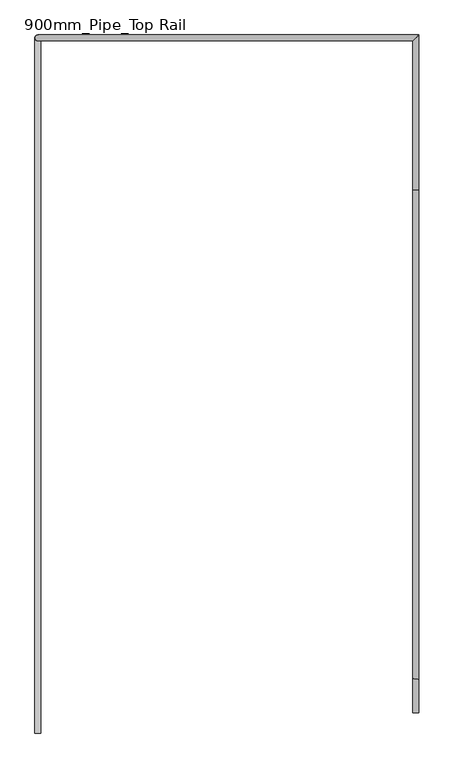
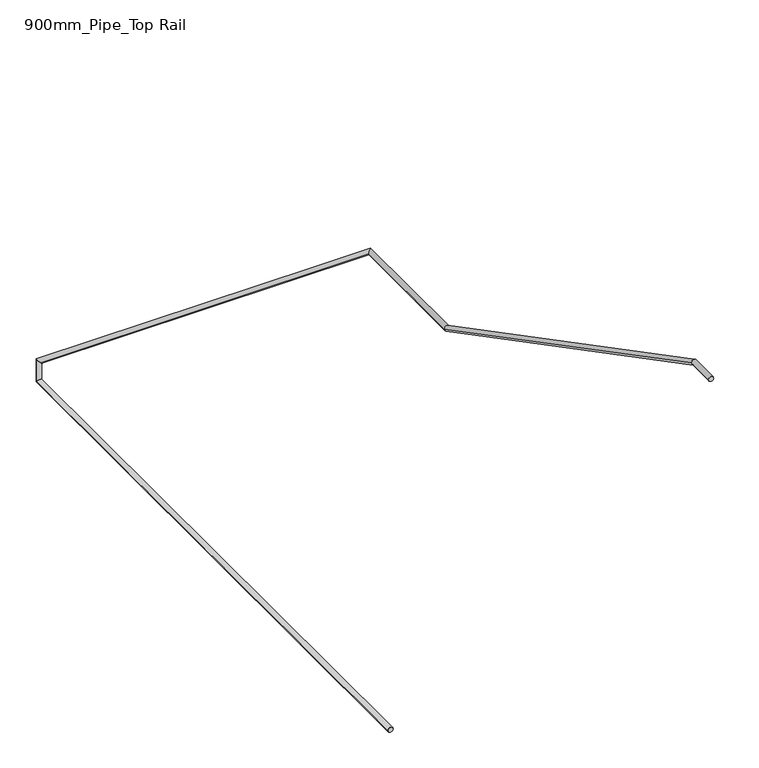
"""IFC4 building model written with IfcOpenShell, lengths in millimetres: railing geometry, 900mm_Pipe_Top Rail."""

from ifc_helpers import new_model, si_unit, frame, origin, place, context, project, spatial, circle_curve, ellipse_curve, source, transform, mapped, element, save
from ifc_brep_helpers import plane_surface, cylinder_surface, advanced_brep


def railing_900mm_pipe_top_rail_560b4fde(model_context):
    return source(origin(), model_context, "Body", "AdvancedBrep", [
        advanced_brep(
        [(-13345.321645, -3352.2979611, 948.1818182), (-13385.321645, -3352.2979611, 948.1818182), (-13345.321645, 1339.8960678, 948.1818182), (-13385.321645, 1339.8960678, 948.1818182)],
        [
            (0, 1, circle_curve(frame((-13365.321645, -3352.2979611, 948.1818182), z_axis=(0.0, -1.0, 0.0), x_axis=(-1.0, 0.0, 0.0)), 20.0)),
            (1, 0, circle_curve(frame((-13365.321645, -3352.2979611, 948.1818182), z_axis=(0.0, -1.0, 0.0), x_axis=(-1.0, 0.0, 0.0)), 20.0)),
            (2, 3, ellipse_curve(frame((-13365.321645, 1339.8960678, 948.1818182), z_axis=(0.0, 0.7071067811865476, 0.7071067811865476), x_axis=(0.0, -0.7071067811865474, 0.7071067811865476)), 28.2842712, 20.0)),
            (3, 2, ellipse_curve(frame((-13365.321645, 1339.8960678, 948.1818182), z_axis=(0.0, 0.7071067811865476, 0.7071067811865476), x_axis=(0.0, -0.7071067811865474, 0.7071067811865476)), 28.2842712, 20.0)),
            (0, 2),
            (3, 1),
        ],
        [
            plane_surface(frame((-13365.321645, -3352.2979611, 968.1818182), z_axis=(0.0, -1.0, 0.0), x_axis=(0.0, 0.0, 1.0))),
            plane_surface(frame((-13365.321645, 1319.8960678, 968.1818182), z_axis=(0.0, 0.7071067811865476, 0.7071067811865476), x_axis=(1.0, 0.0, 0.0))),
            cylinder_surface(frame((-13365.321645, -3352.2979611, 948.1818182), z_axis=(0.0, -1.0, 0.0), x_axis=(-1.0, 0.0, 0.0)), 20.0),
        ],
        [
            (0, [[1, 2]]),
            (1, [[3, 4]]),
            (2, [[-1, 5, -4, 6]]),
            (2, [[-2, -6, -3, -5]]),
        ],
    ),
        advanced_brep(
        [(-13345.321645, 1339.8960678, 948.1818182), (-13385.321645, 1339.8960678, 948.1818182), (-13345.321645, 1339.8960678, 1085.0), (-13385.321645, 1339.8960678, 1125.0)],
        [
            (0, 1, ellipse_curve(frame((-13365.321645, 1339.8960678, 948.1818182), z_axis=(0.0, -0.7071067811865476, -0.7071067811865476), x_axis=(0.0, 0.7071067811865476, -0.7071067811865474)), 28.2842712, 20.0)),
            (1, 0, ellipse_curve(frame((-13365.321645, 1339.8960678, 948.1818182), z_axis=(0.0, -0.7071067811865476, -0.7071067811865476), x_axis=(0.0, 0.7071067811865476, -0.7071067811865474)), 28.2842712, 20.0)),
            (2, 3, ellipse_curve(frame((-13365.321645, 1339.8960678, 1105.0), z_axis=(0.7071067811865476, 0.0, 0.7071067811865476), x_axis=(0.7071067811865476, 0.0, -0.7071067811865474)), 28.2842712, 20.0)),
            (3, 2, ellipse_curve(frame((-13365.321645, 1339.8960678, 1105.0), z_axis=(0.7071067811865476, 0.0, 0.7071067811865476), x_axis=(0.7071067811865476, 0.0, -0.7071067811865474)), 28.2842712, 20.0)),
            (0, 2),
            (3, 1),
        ],
        [
            plane_surface(frame((-13365.321645, 1339.8960678, 948.1818182), z_axis=(0.0, -0.7071067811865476, -0.7071067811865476), x_axis=(1.0, 0.0, 0.0))),
            plane_surface(frame((-13365.321645, 1339.8960678, 1105.0), z_axis=(0.7071067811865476, 0.0, 0.7071067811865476), x_axis=(0.7071067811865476, 0.0, -0.7071067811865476))),
            cylinder_surface(frame((-13365.321645, 1339.8960678, 948.1818182), z_axis=(0.0, 0.0, -1.0), x_axis=(-1.0, 0.0, 0.0)), 20.0),
        ],
        [
            (0, [[1, 2]]),
            (1, [[3, 4]]),
            (2, [[-1, 5, -4, 6]]),
            (2, [[-2, -6, -3, -5]]),
        ],
    ),
        advanced_brep(
        [(-13365.321645, 1319.8960678, 1105.0), (-13365.321645, 1359.8960678, 1105.0), (-10835.2146087, 1319.8960678, 1105.0), (-10795.2146087, 1359.8960678, 1105.0), (-10835.2146087, 309.9974548, 1105.0), (-10795.2146087, 309.9974548, 1105.0), (-10835.2146087, -2990.0025452, 2830.0), (-10795.2146087, -2990.0025452, 2830.0), (-10835.2146087, -3215.0174196, 2830.0), (-10795.2146087, -3215.0174196, 2830.0)],
        [
            (0, 1, ellipse_curve(frame((-13365.321645, 1339.8960678, 1105.0), z_axis=(-0.7071067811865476, 0.0, -0.7071067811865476), x_axis=(-0.7071067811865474, 0.0, 0.7071067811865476)), 28.2842712, 20.0)),
            (1, 0, ellipse_curve(frame((-13365.321645, 1339.8960678, 1105.0), z_axis=(-0.7071067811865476, 0.0, -0.7071067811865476), x_axis=(-0.7071067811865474, 0.0, 0.7071067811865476)), 28.2842712, 20.0)),
            (0, 2),
            (2, 3, ellipse_curve(frame((-10815.2146087, 1339.8960678, 1105.0), z_axis=(-0.7071067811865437, 0.7071067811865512, 0.0), x_axis=(-0.7071067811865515, -0.7071067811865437, 0.0)), 28.2842712, 20.0)),
            (3, 1),
            (3, 2, ellipse_curve(frame((-10815.2146087, 1339.8960678, 1105.0), z_axis=(-0.7071067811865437, 0.7071067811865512, 0.0), x_axis=(-0.7071067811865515, -0.7071067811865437, 0.0)), 28.2842712, 20.0)),
            (2, 4),
            (4, 5, ellipse_curve(frame((-10815.2146087, 309.9974548, 1105.0), z_axis=(0.0, 0.9711399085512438, -0.23851054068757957), x_axis=(0.0, 0.23851054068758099, 0.9711399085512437)), 20.594355, 20.0)),
            (5, 3),
            (5, 4, ellipse_curve(frame((-10815.2146087, 309.9974548, 1105.0), z_axis=(0.0, 0.9711399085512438, -0.23851054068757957), x_axis=(0.0, 0.23851054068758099, 0.9711399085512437)), 20.594355, 20.0)),
            (4, 6),
            (6, 7, ellipse_curve(frame((-10815.2146087, -2990.0025452, 2830.0), z_axis=(0.0, 0.9711399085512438, -0.23851054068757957), x_axis=(0.0, -0.23851054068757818, -0.9711399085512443)), 20.594355, 20.0)),
            (7, 5),
            (7, 6, ellipse_curve(frame((-10815.2146087, -2990.0025452, 2830.0), z_axis=(0.0, 0.9711399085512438, -0.23851054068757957), x_axis=(0.0, -0.23851054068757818, -0.9711399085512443)), 20.594355, 20.0)),
            (8, 9, circle_curve(frame((-10815.2146087, -3215.0174196, 2830.0), z_axis=(0.0, -1.0, 0.0), x_axis=(1.0, 0.0, 0.0)), 20.0)),
            (9, 8, circle_curve(frame((-10815.2146087, -3215.0174196, 2830.0), z_axis=(0.0, -1.0, 0.0), x_axis=(1.0, 0.0, 0.0)), 20.0)),
            (6, 8),
            (9, 7),
        ],
        [
            plane_surface(frame((-13385.321645, 1339.8960678, 1125.0), z_axis=(-0.7071067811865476, 0.0, -0.7071067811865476), x_axis=(0.7071067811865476, 0.0, -0.7071067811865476))),
            cylinder_surface(frame((-13385.321645, 1339.8960678, 1105.0), z_axis=(-1.0, 0.0, 0.0), x_axis=(0.0, 1.0, 0.0)), 20.0),
            cylinder_surface(frame((-10815.2146087, 1339.8960678, 1105.0), z_axis=(0.0, 1.0, 0.0), x_axis=(1.0, 0.0, 0.0)), 20.0),
            cylinder_surface(frame((-10815.2146087, 305.6443413, 1107.2754911), z_axis=(0.0, 0.8862254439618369, -0.4632542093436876), x_axis=(1.0, 0.0, 0.0)), 20.0),
            plane_surface(frame((-10815.2146087, -3215.0174196, 2850.0), z_axis=(0.0, -1.0, 0.0), x_axis=(0.0, 0.0, -1.0))),
            cylinder_surface(frame((-10815.2146087, -2985.0905745, 2830.0), z_axis=(0.0, 1.0, 0.0), x_axis=(1.0, 0.0, 0.0)), 20.0),
        ],
        [
            (0, [[1, 2]]),
            (1, [[-1, 3, 4, 5]]),
            (1, [[-2, -5, 6, -3]]),
            (2, [[-4, 7, 8, 9]]),
            (2, [[-6, -9, 10, -7]]),
            (3, [[-8, 11, 12, 13]]),
            (3, [[-10, -13, 14, -11]]),
            (4, [[15, 16]]),
            (5, [[-12, 17, -16, 18]]),
            (5, [[-14, -18, -15, -17]]),
        ],
    ),
    ])


if __name__ == "__main__":
    model = new_model("IFC4")
    model_context = context("Model", 3, world=origin())
    ifc_project = project(units=[si_unit("LENGTHUNIT", "METRE", prefix="MILLI")], contexts=[model_context])
    site = spatial("IfcSite", under=ifc_project)
    building = spatial("IfcBuilding", under=site)
    placement = place(None, origin())
    railing_900mm_pipe_top_rail_shape = railing_900mm_pipe_top_rail_560b4fde(model_context)
    element("IfcRailing", 1, ObjectType="900mm_Pipe_Top Rail", at=placement, inside=building, context=model_context, shape_type="MappedRepresentation", body=[
        mapped(railing_900mm_pipe_top_rail_shape, transform((0.0, 0.0, 0.0), x_axis=(1.0, 0.0, 0.0), y_axis=(0.0, 1.0, 0.0), z_axis=(0.0, 0.0, 1.0))),
    ])
    save(model, "model.ifc")
